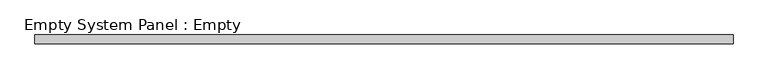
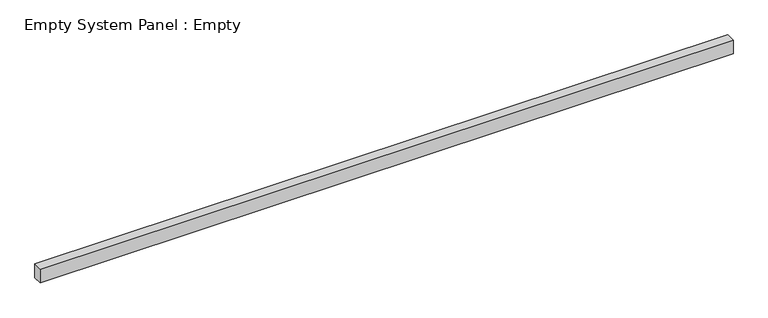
"""IFC4 building model written with IfcOpenShell, lengths in millimetres: plate geometry, Empty System Panel : Empty."""

from ifc_helpers import new_model, si_unit, origin, origin_with_axes, place, context, project, spatial, polyline, outline, extrude, source, transform, mapped, element, save


def empty_system_panel_empty_3e2f795e(model_context):
    return source(origin(), model_context, "Body", "SweptSolid", [
        extrude(outline(polyline([(3900.0, -50.0), (-3900.0, -50.0), (-3900.0, 50.0), (3900.0, 50.0), (3900.0, -50.0)])), origin_with_axes(), (0.0, 0.0, 1.0), 164.0337876),
    ])


if __name__ == "__main__":
    model = new_model("IFC4")
    model_context = context("Model", 3, world=origin())
    ifc_project = project(units=[si_unit("LENGTHUNIT", "METRE", prefix="MILLI")], contexts=[model_context])
    site = spatial("IfcSite", under=ifc_project)
    building = spatial("IfcBuilding", under=site)
    placement = place(None, origin())
    empty_system_panel_empty_shape = empty_system_panel_empty_3e2f795e(model_context)
    element("IfcPlate", 1, ObjectType="Empty System Panel : Empty", at=placement, inside=building, context=model_context, shape_type="MappedRepresentation", body=[
        mapped(empty_system_panel_empty_shape, transform((0.0, 0.0, 0.0), x_axis=(1.0, 0.0, 0.0), y_axis=(0.0, 1.0, 0.0), z_axis=(0.0, 0.0, 1.0))),
    ])
    save(model, "model.ifc")
